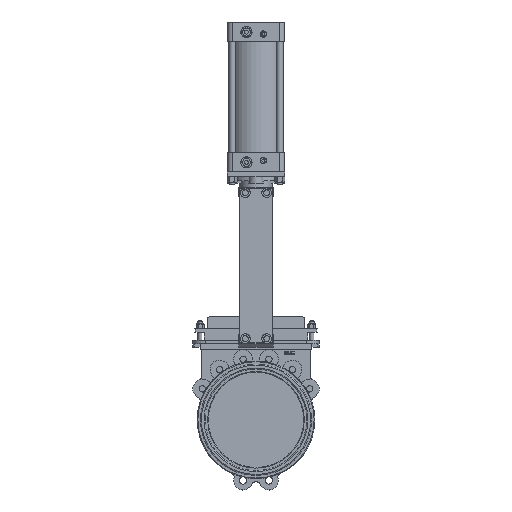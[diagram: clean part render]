
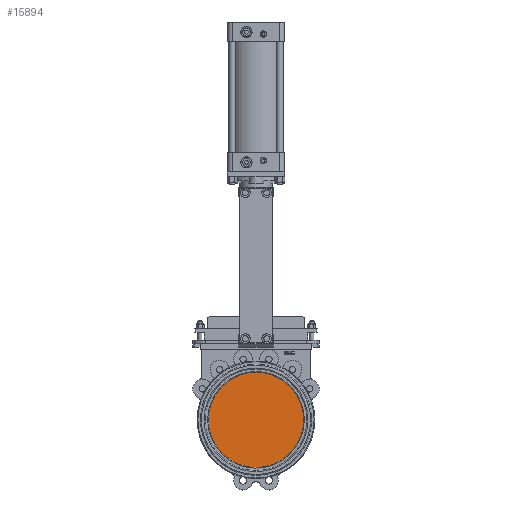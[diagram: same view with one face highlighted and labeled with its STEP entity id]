
A CAD part, top view. The second image highlights one B-rep face of the part: STEP entity #15894.
In plain terms, the highlighted planar face has unit normal (0, 0, 1).
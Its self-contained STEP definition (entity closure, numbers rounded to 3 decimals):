
#963=PLANE('',#17437);
#4190=FACE_OUTER_BOUND('',#5188,.T.);
#5188=EDGE_LOOP('',(#13422));
#5739=CIRCLE('',#16814,150.);
#6698=VERTEX_POINT('',#24516);
#8401=EDGE_CURVE('',#6698,#6698,#5739,.T.);
#13422=ORIENTED_EDGE('',*,*,#8401,.F.);
#15894=ADVANCED_FACE('',(#4190),#963,.T.);
#16814=AXIS2_PLACEMENT_3D('',#24518,#19477,#19478);
#17437=AXIS2_PLACEMENT_3D('',#26979,#21445,#21446);
#19477=DIRECTION('center_axis',(0.,0.,-1.));
#19478=DIRECTION('ref_axis',(-1.,0.,0.));
#21445=DIRECTION('center_axis',(0.,0.,1.));
#21446=DIRECTION('ref_axis',(1.,0.,0.));
#24516=CARTESIAN_POINT('',(150.,0.,7.5));
#24518=CARTESIAN_POINT('Origin',(0.,0.,7.5));
#26979=CARTESIAN_POINT('Origin',(0.,0.,7.5));
